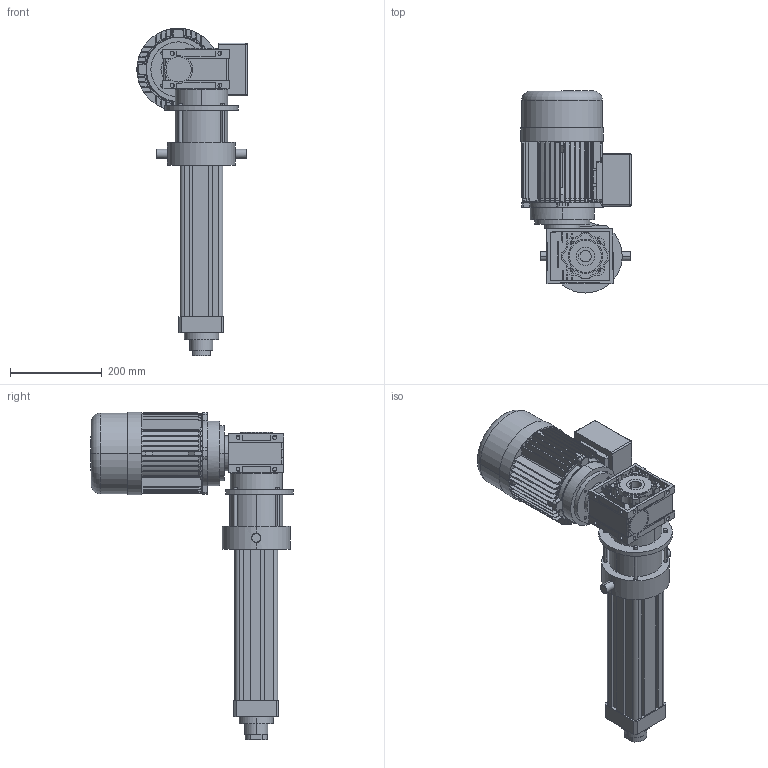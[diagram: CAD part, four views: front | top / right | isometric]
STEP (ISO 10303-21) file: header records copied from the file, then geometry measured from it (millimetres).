
FILE_DESCRIPTION (( 'STEP AP214' ), '1' );
FILE_NAME ('Ass RV80 TR C200.STEP', '2017-01-03T16:23:30', ( 'Hubert' ), ( '' ), 'SwSTEP 2.0', 'SolidWorks 2014', '' );
FILE_SCHEMA (( 'AUTOMOTIVE_DESIGN' ));
Length unit declared in the file: millimetre
Products named in the file (9): _AT_90_LB_4_B14__230-400-50_AC.3d1; _CHM_50_FC_2_7,5_80_B14_B3.3d; Vis MRRV80 TR C200; PAAR RV 80 B160; Ass RV80 TR C200; PAAV 80 D; Profilé MRRV80 TR C200; Tube MR 80 TR C200; Ass CHM50_FC MOT 90
Assembly tree (8 placements, depth 3):
  Ass RV80 TR C200
    PAAR RV 80 B160
    Vis MRRV80 TR C200
    Ass CHM50_FC MOT 90
      _CHM_50_FC_2_7,5_80_B14_B3.3d
      _AT_90_LB_4_B14__230-400-50_AC.3d1
    Tube MR 80 TR C200
    Profilé MRRV80 TR C200
    PAAV 80 D
Bounding box: 240.54 x 440.05 x 714 mm (x, y, z)
Volume: 10302119.1 mm3; surface area: 1240275.9 mm2
Topology: 7 solids, 16 shells, 1089 faces, 3181 edges, 2145 vertices
Faces by surface type: plane 467, cylinder 414, cone 159, bspline 47, torus 2
Entity records: 53534 total; most frequent: CARTESIAN_POINT 14461, ORIENTED_EDGE 6286, DIRECTION 5228, EDGE_CURVE 3143, VERTEX_POINT 2145, AXIS2_PLACEMENT_3D 1827, VECTOR 1574, LINE 1574
